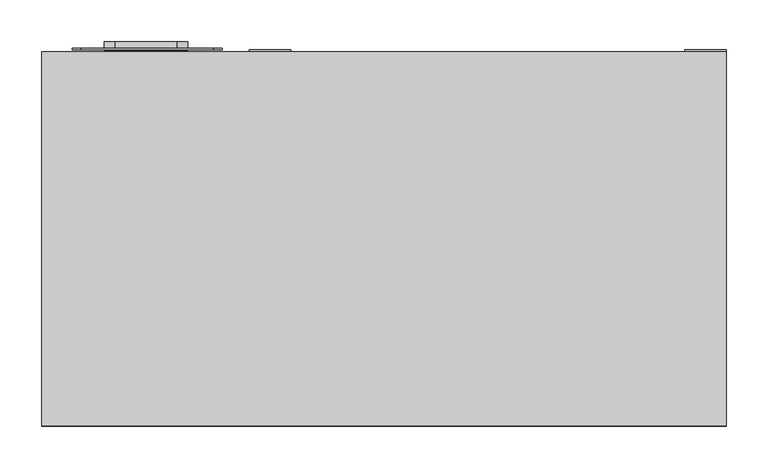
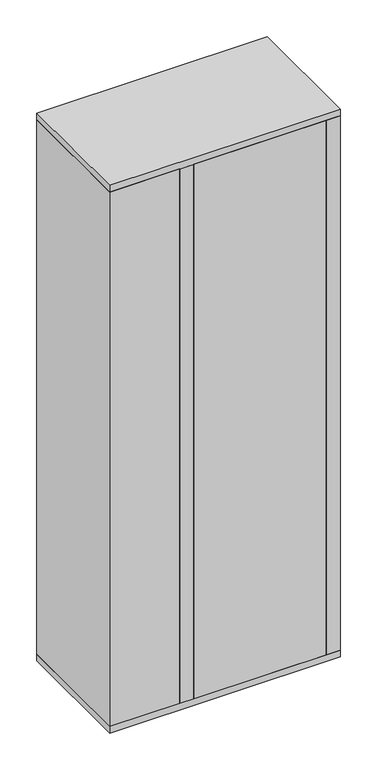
"""IFC4 building model written with IfcOpenShell, lengths in millimetres: furniture geometry, BIMHealth-Heated_Lotion_Cabinet-LOD2A-v1 : BIMHealth-Heated_Lotion_Cabinet-LOD2A-v1."""

from ifc_helpers import new_model, si_unit, point, frame, frame_2d, origin, origin_with_axes, place, context, project, spatial, polyline, circle_curve, trimmed, segment, composite_curve, outline, extrude, faceted_brep, source, transform, mapped, element, save


def furniture_9a96ea39(model_context):
    return source(origin(), model_context, "Body", "SolidModel", [
        faceted_brep([(124.0, 225.0, 2045.0), (104.0, 225.0, 2045.0), (104.0, 220.0, 2045.0), (114.0, 220.0, 2045.0), (119.0, 220.0, 2045.0), (119.0, 200.0, 2045.0), (79.0, 200.0, 2045.0), (54.0, 225.0, 2045.0), (-350.0, 225.0, 2045.0), (-350.0, 220.0, 2045.0), (51.9289322, 220.0, 2045.0), (76.9289322, 195.0, 2045.0), (124.0, 195.0, 2045.0), (124.0, 225.0, 25.0), (124.0, 195.0, 25.0), (76.9289322, 195.0, 25.0), (51.9289322, 220.0, 25.0), (-350.0, 220.0, 25.0), (-350.0, 225.0, 25.0), (54.0, 225.0, 25.0), (79.0, 200.0, 25.0), (119.0, 200.0, 25.0), (119.0, 220.0, 25.0), (114.0, 220.0, 25.0), (104.0, 220.0, 25.0), (104.0, 225.0, 25.0), (-76.0, 220.0, 1845.0), (-76.0, 220.0, 225.0), (-275.0, 220.0, 225.0), (-275.0, 220.0, 1845.0), (-76.0, 225.0, 1845.0), (-275.0, 225.0, 1845.0), (-275.0, 225.0, 225.0), (-76.0, 225.0, 225.0)], [[[0, 1, 2, 3, 4, 5, 6, 7, 8, 9, 10, 11, 12]], [[13, 14, 15, 16, 17, 18, 19, 20, 21, 22, 23, 24, 25]], [[0, 12, 14, 13]], [[12, 11, 15, 14]], [[11, 10, 16, 15]], [[10, 9, 17, 16], [26, 27, 28, 29]], [[8, 7, 19, 18], [30, 31, 32, 33]], [[7, 6, 20, 19]], [[6, 5, 21, 20]], [[5, 4, 22, 21]], [[4, 3, 23, 22]], [[3, 2, 24, 23]], [[2, 1, 25, 24]], [[1, 0, 13, 25]], [[17, 9, 8, 18]], [[26, 29, 31, 30]], [[29, 28, 32, 31]], [[28, 27, 33, 32]], [[27, 26, 30, 33]]]),
        extrude(outline(composite_curve([segment(trimmed(circle_curve(frame_2d((1140.8724658, -561.9078407)), 12.5), [point((1153.3724658, -561.9078407))], [point((1140.8724658, -574.4078407))], False, "CARTESIAN"), True, "CONTINUOUS"), segment(polyline([(1140.8724658, -574.4078407), (1105.8724658, -574.4078407)]), True, "CONTINUOUS"), segment(trimmed(circle_curve(frame_2d((1105.8724658, -561.9078407)), 12.5), [point((1105.8724658, -574.4078407))], [point((1093.3724658, -561.9078407))], False, "CARTESIAN"), True, "CONTINUOUS"), segment(polyline([(1093.3724658, -561.9078407), (1093.3724658, -486.9078407)]), True, "CONTINUOUS"), segment(trimmed(circle_curve(frame_2d((1105.8724658, -486.9078407)), 12.5), [point((1093.3724658, -486.9078407))], [point((1105.8724658, -474.4078407))], False, "CARTESIAN"), True, "CONTINUOUS"), segment(polyline([(1105.8724658, -474.4078407), (1140.8724658, -474.4078407)]), True, "CONTINUOUS"), segment(trimmed(circle_curve(frame_2d((1140.8724658, -486.9078407)), 12.5), [point((1140.8724658, -474.4078407))], [point((1153.3724658, -486.9078407))], False, "CARTESIAN"), True, "CONTINUOUS"), segment(polyline([(1153.3724658, -486.9078407), (1153.3724658, -561.9078407)]), True, "CONTINUOUS")], self_intersect=False)), frame((0.0, 227.5, 0.0), z_axis=(0.0, 1.0, 0.0), x_axis=(0.0, 0.0, 1.0)), (0.0, 0.0, 1.0), 10.0),
        extrude(outline(composite_curve([segment(trimmed(circle_curve(frame_2d((1490.151811, -602.9047454)), 10.0), [point((1500.151811, -602.9047454))], [point((1490.151811, -612.9047454))], False, "CARTESIAN"), True, "CONTINUOUS"), segment(polyline([(1490.151811, -612.9047454), (1410.151811, -612.9047454)]), True, "CONTINUOUS"), segment(trimmed(circle_curve(frame_2d((1410.151811, -602.9047454)), 10.0), [point((1410.151811, -612.9047454))], [point((1400.151811, -602.9047454))], False, "CARTESIAN"), True, "CONTINUOUS"), segment(polyline([(1400.151811, -602.9047454), (1400.151811, -442.9047454)]), True, "CONTINUOUS"), segment(trimmed(circle_curve(frame_2d((1410.151811, -442.9047454)), 10.0), [point((1400.151811, -442.9047454))], [point((1410.151811, -432.9047454))], False, "CARTESIAN"), True, "CONTINUOUS"), segment(polyline([(1410.151811, -432.9047454), (1490.151811, -432.9047454)]), True, "CONTINUOUS"), segment(trimmed(circle_curve(frame_2d((1490.151811, -442.9047454)), 10.0), [point((1490.151811, -432.9047454))], [point((1500.151811, -442.9047454))], False, "CARTESIAN"), True, "CONTINUOUS"), segment(polyline([(1500.151811, -442.9047454), (1500.151811, -602.9047454)]), True, "CONTINUOUS")], self_intersect=False)), frame((0.0, 227.5, 0.0), z_axis=(0.0, 1.0, 0.0), x_axis=(0.0, 0.0, 1.0)), (0.0, 0.0, 1.0), 2.0),
        extrude(outline(polyline([(174.0, -225.0), (-350.0, -225.0), (-350.0, -205.0), (174.0, -205.0), (174.0, -225.0)])), frame((0.0, 0.0, 25.0), z_axis=(0.0, 0.0, 1.0), x_axis=(1.0, 0.0, 0.0)), (0.0, 0.0, 1.0), 2020.0),
        extrude(outline(polyline([(-650.0, 225.0), (-400.0, 225.0), (-400.0, -225.0), (-650.0, -225.0), (-650.0, 225.0)])), frame((0.0, 0.0, 25.0), z_axis=(0.0, 0.0, 1.0), x_axis=(1.0, 0.0, 0.0)), (0.0, 0.0, 1.0), 2020.0),
        extrude(outline(polyline([(-76.0, 220.0), (-275.0, 220.0), (-275.0, 222.5), (-76.0, 222.5), (-76.0, 220.0)])), frame((0.0, 0.0, 225.0), z_axis=(0.0, 0.0, 1.0), x_axis=(1.0, 0.0, 0.0)), (0.0, 0.0, 1.0), 1620.0),
        extrude(outline(polyline([(174.0, 225.0), (174.0, -225.0), (-650.0, -225.0), (-650.0, 225.0), (174.0, 225.0)])), frame((0.0, 0.0, 2045.0), z_axis=(0.0, 0.0, 1.0), x_axis=(1.0, 0.0, 0.0)), (0.0, 0.0, 1.0), 25.0),
        extrude(outline(polyline([(174.0, -225.0), (124.0, -225.0), (124.0, 227.5), (174.0, 227.5), (174.0, -225.0)])), frame((0.0, 0.0, 25.0), z_axis=(0.0, 0.0, 1.0), x_axis=(1.0, 0.0, 0.0)), (0.0, 0.0, 1.0), 2020.0),
        extrude(outline(polyline([(-350.0, -225.0), (-400.0, -225.0), (-400.0, 227.5), (-350.0, 227.5), (-350.0, -225.0)])), frame((0.0, 0.0, 25.0), z_axis=(0.0, 0.0, 1.0), x_axis=(1.0, 0.0, 0.0)), (0.0, 0.0, 1.0), 2020.0),
        extrude(outline(polyline([(174.0, 225.0), (174.0, -225.0), (-650.0, -225.0), (-650.0, 225.0), (174.0, 225.0)])), origin_with_axes(), (0.0, 0.0, 1.0), 25.0),
    ])


if __name__ == "__main__":
    model = new_model("IFC4")
    model_context = context("Model", 3, world=origin())
    ifc_project = project(units=[si_unit("LENGTHUNIT", "METRE", prefix="MILLI")], contexts=[model_context])
    site = spatial("IfcSite", under=ifc_project)
    building = spatial("IfcBuilding", under=site)
    placement = place(None, origin())
    furniture_shape = furniture_9a96ea39(model_context)
    element("IfcFurniture", 1, ObjectType="BIMHealth-Heated_Lotion_Cabinet-LOD2A-v1 : BIMHealth-Heated_Lotion_Cabinet-LOD2A-v1", at=placement, inside=building, context=model_context, shape_type="MappedRepresentation", body=[
        mapped(furniture_shape, transform((0.0, 0.0, 0.0), x_axis=(1.0, 0.0, 0.0), y_axis=(0.0, 1.0, 0.0), z_axis=(0.0, 0.0, 1.0))),
    ])
    save(model, "model.ifc")
